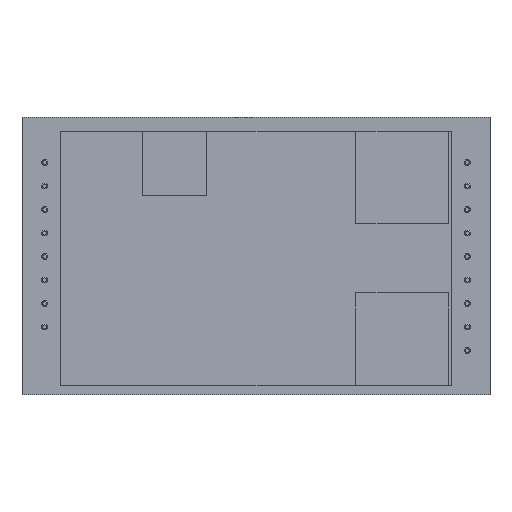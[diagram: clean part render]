
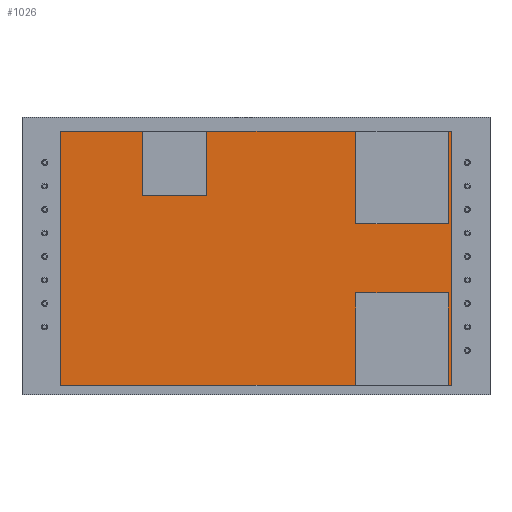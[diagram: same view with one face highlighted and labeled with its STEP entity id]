
A CAD part, top view. The second image highlights one B-rep face of the part: STEP entity #1026.
In plain terms, the highlighted planar face has unit normal (0, 0, 1).
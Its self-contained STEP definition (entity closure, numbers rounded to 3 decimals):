
#712 = VERTEX_POINT('',#713);
#713 = CARTESIAN_POINT('',(4.2,28.5,3.8));
#720 = PLANE('',#721);
#721 = AXIS2_PLACEMENT_3D('',#722,#723,#724);
#722 = CARTESIAN_POINT('',(4.2,28.5,1.6));
#723 = DIRECTION('',(0.,1.,0.));
#724 = DIRECTION('',(1.,0.,0.));
#732 = PLANE('',#733);
#733 = AXIS2_PLACEMENT_3D('',#734,#735,#736);
#734 = CARTESIAN_POINT('',(4.2,1.,1.6));
#735 = DIRECTION('',(-1.,0.,0.));
#736 = DIRECTION('',(0.,1.,0.));
#744 = EDGE_CURVE('',#712,#745,#747,.T.);
#745 = VERTEX_POINT('',#746);
#746 = CARTESIAN_POINT('',(46.4,28.5,3.8));
#747 = SURFACE_CURVE('',#748,(#752,#759),.PCURVE_S1.);
#748 = LINE('',#749,#750);
#749 = CARTESIAN_POINT('',(4.2,28.5,3.8));
#750 = VECTOR('',#751,1.);
#751 = DIRECTION('',(1.,0.,0.));
#752 = PCURVE('',#720,#753);
#753 = DEFINITIONAL_REPRESENTATION('',(#754),#758);
#754 = LINE('',#755,#756);
#755 = CARTESIAN_POINT('',(0.,-2.2));
#756 = VECTOR('',#757,1.);
#757 = DIRECTION('',(1.,0.));
#758 = ( GEOMETRIC_REPRESENTATION_CONTEXT(2) 
PARAMETRIC_REPRESENTATION_CONTEXT() REPRESENTATION_CONTEXT('2D SPACE',''
  ) );
#759 = PCURVE('',#760,#765);
#760 = PLANE('',#761);
#761 = AXIS2_PLACEMENT_3D('',#762,#763,#764);
#762 = CARTESIAN_POINT('',(25.3,14.75,3.8));
#763 = DIRECTION('',(0.,0.,1.));
#764 = DIRECTION('',(1.,0.,0.));
#765 = DEFINITIONAL_REPRESENTATION('',(#766),#770);
#766 = LINE('',#767,#768);
#767 = CARTESIAN_POINT('',(-21.1,13.75));
#768 = VECTOR('',#769,1.);
#769 = DIRECTION('',(1.,0.));
#770 = ( GEOMETRIC_REPRESENTATION_CONTEXT(2) 
PARAMETRIC_REPRESENTATION_CONTEXT() REPRESENTATION_CONTEXT('2D SPACE',''
  ) );
#788 = PLANE('',#789);
#789 = AXIS2_PLACEMENT_3D('',#790,#791,#792);
#790 = CARTESIAN_POINT('',(46.4,28.5,1.6));
#791 = DIRECTION('',(1.,0.,0.));
#792 = DIRECTION('',(0.,-1.,0.));
#830 = EDGE_CURVE('',#745,#831,#833,.T.);
#831 = VERTEX_POINT('',#832);
#832 = CARTESIAN_POINT('',(46.4,1.,3.8));
#833 = SURFACE_CURVE('',#834,(#838,#845),.PCURVE_S1.);
#834 = LINE('',#835,#836);
#835 = CARTESIAN_POINT('',(46.4,28.5,3.8));
#836 = VECTOR('',#837,1.);
#837 = DIRECTION('',(0.,-1.,0.));
#838 = PCURVE('',#788,#839);
#839 = DEFINITIONAL_REPRESENTATION('',(#840),#844);
#840 = LINE('',#841,#842);
#841 = CARTESIAN_POINT('',(0.,-2.2));
#842 = VECTOR('',#843,1.);
#843 = DIRECTION('',(1.,0.));
#844 = ( GEOMETRIC_REPRESENTATION_CONTEXT(2) 
PARAMETRIC_REPRESENTATION_CONTEXT() REPRESENTATION_CONTEXT('2D SPACE',''
  ) );
#845 = PCURVE('',#760,#846);
#846 = DEFINITIONAL_REPRESENTATION('',(#847),#851);
#847 = LINE('',#848,#849);
#848 = CARTESIAN_POINT('',(21.1,13.75));
#849 = VECTOR('',#850,1.);
#850 = DIRECTION('',(0.,-1.));
#851 = ( GEOMETRIC_REPRESENTATION_CONTEXT(2) 
PARAMETRIC_REPRESENTATION_CONTEXT() REPRESENTATION_CONTEXT('2D SPACE',''
  ) );
#869 = PLANE('',#870);
#870 = AXIS2_PLACEMENT_3D('',#871,#872,#873);
#871 = CARTESIAN_POINT('',(46.4,1.,1.6));
#872 = DIRECTION('',(0.,-1.,0.));
#873 = DIRECTION('',(-1.,0.,0.));
#906 = EDGE_CURVE('',#831,#907,#909,.T.);
#907 = VERTEX_POINT('',#908);
#908 = CARTESIAN_POINT('',(4.2,1.,3.8));
#909 = SURFACE_CURVE('',#910,(#914,#921),.PCURVE_S1.);
#910 = LINE('',#911,#912);
#911 = CARTESIAN_POINT('',(46.4,1.,3.8));
#912 = VECTOR('',#913,1.);
#913 = DIRECTION('',(-1.,0.,0.));
#914 = PCURVE('',#869,#915);
#915 = DEFINITIONAL_REPRESENTATION('',(#916),#920);
#916 = LINE('',#917,#918);
#917 = CARTESIAN_POINT('',(0.,-2.2));
#918 = VECTOR('',#919,1.);
#919 = DIRECTION('',(1.,0.));
#920 = ( GEOMETRIC_REPRESENTATION_CONTEXT(2) 
PARAMETRIC_REPRESENTATION_CONTEXT() REPRESENTATION_CONTEXT('2D SPACE',''
  ) );
#921 = PCURVE('',#760,#922);
#922 = DEFINITIONAL_REPRESENTATION('',(#923),#927);
#923 = LINE('',#924,#925);
#924 = CARTESIAN_POINT('',(21.1,-13.75));
#925 = VECTOR('',#926,1.);
#926 = DIRECTION('',(-1.,0.));
#927 = ( GEOMETRIC_REPRESENTATION_CONTEXT(2) 
PARAMETRIC_REPRESENTATION_CONTEXT() REPRESENTATION_CONTEXT('2D SPACE',''
  ) );
#977 = EDGE_CURVE('',#907,#712,#978,.T.);
#978 = SURFACE_CURVE('',#979,(#983,#990),.PCURVE_S1.);
#979 = LINE('',#980,#981);
#980 = CARTESIAN_POINT('',(4.2,1.,3.8));
#981 = VECTOR('',#982,1.);
#982 = DIRECTION('',(0.,1.,0.));
#983 = PCURVE('',#732,#984);
#984 = DEFINITIONAL_REPRESENTATION('',(#985),#989);
#985 = LINE('',#986,#987);
#986 = CARTESIAN_POINT('',(0.,-2.2));
#987 = VECTOR('',#988,1.);
#988 = DIRECTION('',(1.,0.));
#989 = ( GEOMETRIC_REPRESENTATION_CONTEXT(2) 
PARAMETRIC_REPRESENTATION_CONTEXT() REPRESENTATION_CONTEXT('2D SPACE',''
  ) );
#990 = PCURVE('',#760,#991);
#991 = DEFINITIONAL_REPRESENTATION('',(#992),#996);
#992 = LINE('',#993,#994);
#993 = CARTESIAN_POINT('',(-21.1,-13.75));
#994 = VECTOR('',#995,1.);
#995 = DIRECTION('',(0.,1.));
#996 = ( GEOMETRIC_REPRESENTATION_CONTEXT(2) 
PARAMETRIC_REPRESENTATION_CONTEXT() REPRESENTATION_CONTEXT('2D SPACE',''
  ) );
#1026 = ADVANCED_FACE('',(#1027),#760,.T.);
#1027 = FACE_BOUND('',#1028,.F.);
#1028 = EDGE_LOOP('',(#1029,#1030,#1031,#1032));
#1029 = ORIENTED_EDGE('',*,*,#744,.T.);
#1030 = ORIENTED_EDGE('',*,*,#830,.T.);
#1031 = ORIENTED_EDGE('',*,*,#906,.T.);
#1032 = ORIENTED_EDGE('',*,*,#977,.T.);
